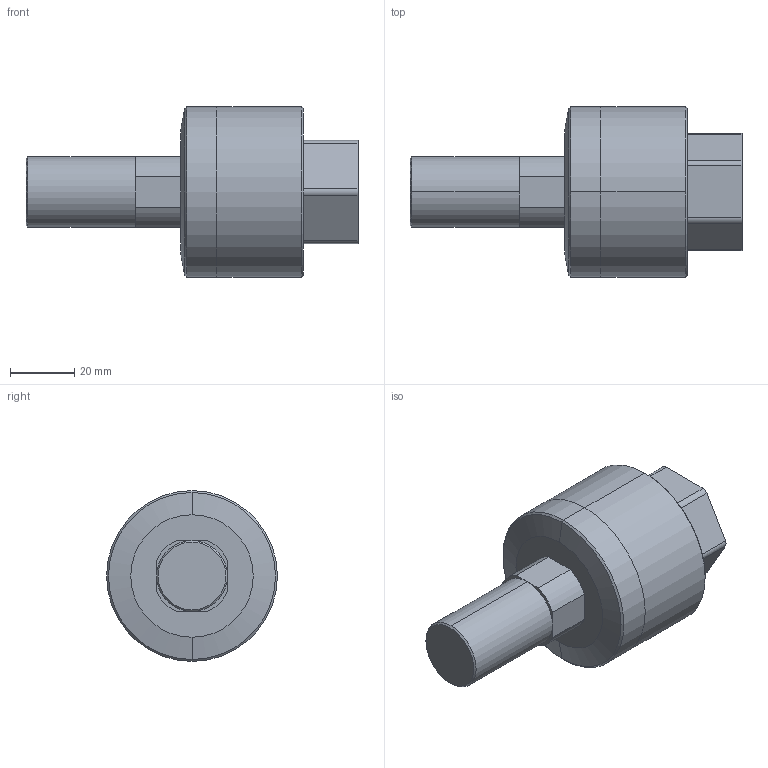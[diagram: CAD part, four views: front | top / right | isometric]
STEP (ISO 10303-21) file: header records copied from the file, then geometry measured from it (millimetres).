
FILE_DESCRIPTION (( 'STEP AP203' ), '1' );
FILE_NAME ('FCM22A-1.5.STEP', '2016-03-23T03:42:30', ( 'Sam Lin' ), ( '' ), 'SwSTEP 2.0', 'SolidWorks 2013', '' );
FILE_SCHEMA (( 'CONFIG_CONTROL_DESIGN' ));
Length unit declared in the file: millimetre
Products named in the file (1): FCM22A-1.5
Bounding box: 103 x 53 x 53 mm (x, y, z)
Volume: 110199.7 mm3; surface area: 16921.8 mm2
Topology: 1 solids, 1 shells, 46 faces, 108 edges, 65 vertices
Faces by surface type: cylinder 18, plane 18, cone 10
Entity records: 1375 total; most frequent: DIRECTION 244, CARTESIAN_POINT 218, ORIENTED_EDGE 212, EDGE_CURVE 106, AXIS2_PLACEMENT_3D 91, VERTEX_POINT 65, VECTOR 62, LINE 62
